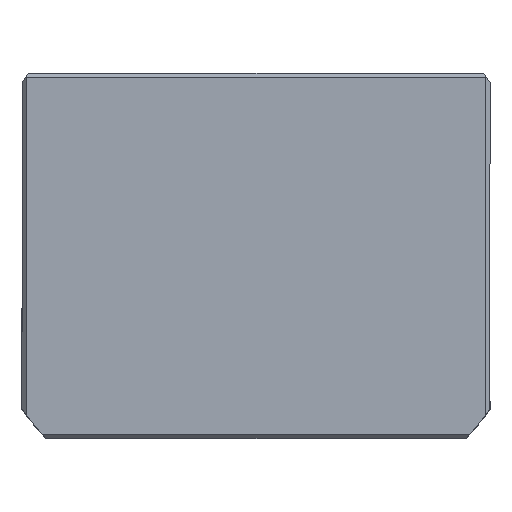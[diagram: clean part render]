
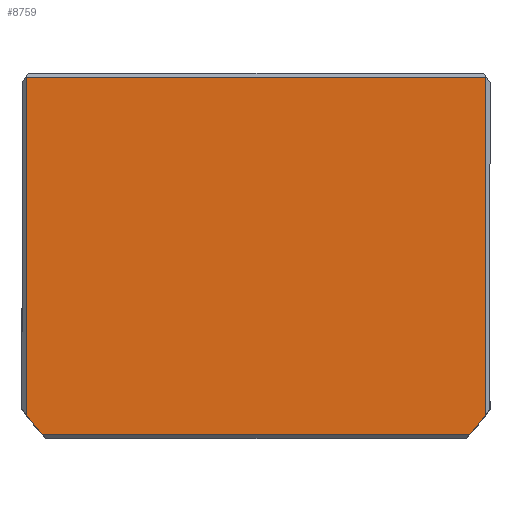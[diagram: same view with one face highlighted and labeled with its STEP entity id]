
A CAD part, top view. The second image highlights one B-rep face of the part: STEP entity #8759.
In plain terms, the highlighted planar face has unit normal (0, 0, 1) as drawn and (0, 0, -1) by its records, which use the part's own axes.
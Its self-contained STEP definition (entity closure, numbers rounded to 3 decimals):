
#1056 = ORIENTED_EDGE ( 'NONE', *, *, #12504, .T. ) ;
#1391 = CARTESIAN_POINT ( 'NONE',  ( 56., -43.5, 0. ) ) ;
#2261 = EDGE_CURVE ( 'NONE', #7120, #17590, #13222, .T. ) ;
#2853 = CARTESIAN_POINT ( 'NONE',  ( 0., -43.5, 0. ) ) ;
#2862 = VECTOR ( 'NONE', #13620, 1000. ) ;
#3305 = VERTEX_POINT ( 'NONE', #1391 ) ;
#3510 = CARTESIAN_POINT ( 'NONE',  ( -56., 38.661, 0. ) ) ;
#3894 = CARTESIAN_POINT ( 'NONE',  ( 0., -2.5, 0. ) ) ;
#4241 = DIRECTION ( 'NONE',  ( 0., 0., 1. ) ) ;
#4623 = VECTOR ( 'NONE', #21106, 1000. ) ;
#4679 = CARTESIAN_POINT ( 'NONE',  ( 56., 38.661, 0. ) ) ;
#5444 = CARTESIAN_POINT ( 'NONE',  ( 56., 0., 0. ) ) ;
#5683 = DIRECTION ( 'NONE',  ( 1., 0., 0. ) ) ;
#5796 = CARTESIAN_POINT ( 'NONE',  ( -52.098, 43.5, 0. ) ) ;
#6006 = EDGE_CURVE ( 'NONE', #12368, #3305, #18750, .T. ) ;
#6216 = CARTESIAN_POINT ( 'NONE',  ( -56., -43.5, 0. ) ) ;
#6813 = DIRECTION ( 'NONE',  ( 0., 1., 0. ) ) ;
#7120 = VERTEX_POINT ( 'NONE', #5796 ) ;
#7424 = CIRCLE ( 'NONE', #14963, 69.5 ) ;
#8153 = DIRECTION ( 'NONE',  ( 1., 0., 0. ) ) ;
#8759 = ADVANCED_FACE ( 'NONE', ( #22399 ), #17051, .F. ) ;
#9367 = LINE ( 'NONE', #17579, #22573 ) ;
#9579 = ORIENTED_EDGE ( 'NONE', *, *, #17332, .T. ) ;
#9989 = LINE ( 'NONE', #19308, #4623 ) ;
#10384 = EDGE_LOOP ( 'NONE', ( #11131, #17195, #14248, #9579, #15751, #1056 ) ) ;
#11131 = ORIENTED_EDGE ( 'NONE', *, *, #13833, .F. ) ;
#11317 = LINE ( 'NONE', #2853, #2862 ) ;
#12368 = VERTEX_POINT ( 'NONE', #4679 ) ;
#12504 = EDGE_CURVE ( 'NONE', #7120, #16943, #9989, .T. ) ;
#13222 = CIRCLE ( 'NONE', #16905, 69.5 ) ;
#13431 = CARTESIAN_POINT ( 'NONE',  ( 0., 0., 0. ) ) ;
#13620 = DIRECTION ( 'NONE',  ( -1., 0., 0. ) ) ;
#13833 = EDGE_CURVE ( 'NONE', #12368, #16943, #7424, .T. ) ;
#13968 = VECTOR ( 'NONE', #21488, 1000. ) ;
#14032 = CARTESIAN_POINT ( 'NONE',  ( 52.098, 43.5, 0. ) ) ;
#14248 = ORIENTED_EDGE ( 'NONE', *, *, #19457, .T. ) ;
#14923 = AXIS2_PLACEMENT_3D ( 'NONE', #13431, #18946, #8153 ) ;
#14963 = AXIS2_PLACEMENT_3D ( 'NONE', #15015, #4241, #16819 ) ;
#15015 = CARTESIAN_POINT ( 'NONE',  ( 0., -2.5, 0. ) ) ;
#15751 = ORIENTED_EDGE ( 'NONE', *, *, #2261, .F. ) ;
#16471 = DIRECTION ( 'NONE',  ( 0., 0., 1. ) ) ;
#16819 = DIRECTION ( 'NONE',  ( 1., 0., 0. ) ) ;
#16905 = AXIS2_PLACEMENT_3D ( 'NONE', #3894, #16471, #5683 ) ;
#16943 = VERTEX_POINT ( 'NONE', #14032 ) ;
#17051 = PLANE ( 'NONE',  #14923 ) ;
#17195 = ORIENTED_EDGE ( 'NONE', *, *, #6006, .T. ) ;
#17332 = EDGE_CURVE ( 'NONE', #20746, #17590, #9367, .T. ) ;
#17579 = CARTESIAN_POINT ( 'NONE',  ( -56., 0., 0. ) ) ;
#17590 = VERTEX_POINT ( 'NONE', #3510 ) ;
#18750 = LINE ( 'NONE', #5444, #13968 ) ;
#18946 = DIRECTION ( 'NONE',  ( 0., 0., 1. ) ) ;
#19308 = CARTESIAN_POINT ( 'NONE',  ( 0., 43.5, 0. ) ) ;
#19457 = EDGE_CURVE ( 'NONE', #3305, #20746, #11317, .T. ) ;
#20746 = VERTEX_POINT ( 'NONE', #6216 ) ;
#21106 = DIRECTION ( 'NONE',  ( 1., 0., 0. ) ) ;
#21488 = DIRECTION ( 'NONE',  ( 0., -1., 0. ) ) ;
#22399 = FACE_OUTER_BOUND ( 'NONE', #10384, .T. ) ;
#22573 = VECTOR ( 'NONE', #6813, 1000. ) ;
